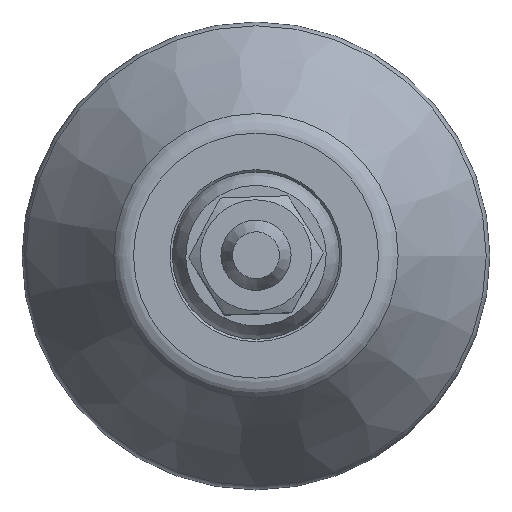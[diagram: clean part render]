
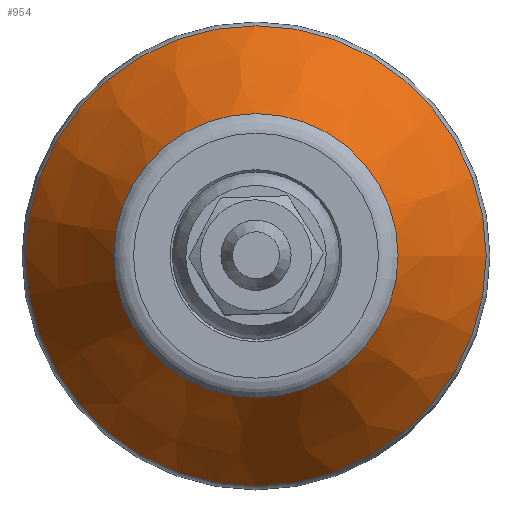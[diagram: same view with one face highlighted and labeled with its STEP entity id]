
A CAD part, top view. The second image highlights one B-rep face of the part: STEP entity #954.
In plain terms, the highlighted conical face has half-angle 33 degrees and reference radius 15.913 mm.
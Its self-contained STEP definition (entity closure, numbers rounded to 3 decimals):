
#954=ADVANCED_FACE('',(#2088,#2090),#2092,.T.);
#2088=FACE_BOUND('',#2089,.T.);
#2089=EDGE_LOOP('',(#3049,#3050));
#2090=FACE_BOUND('',#2091,.T.);
#2091=EDGE_LOOP('',(#3051,#3052));
#2092=CONICAL_SURFACE('',#2093,15.913,0.576);
#2093=AXIS2_PLACEMENT_3D('',#2094,#2095,#2096);
#2094=CARTESIAN_POINT('',(0.,0.,11.293));
#2095=DIRECTION('',(0.,0.,-1.));
#2096=DIRECTION('',(1.,0.,0.));
#3049=ORIENTED_EDGE('',*,*,#3582,.T.);
#3050=ORIENTED_EDGE('',*,*,#3581,.T.);
#3051=ORIENTED_EDGE('',*,*,#3585,.F.);
#3052=ORIENTED_EDGE('',*,*,#3586,.F.);
#3581=EDGE_CURVE('',#4144,#4145,#4146,.T.);
#3582=EDGE_CURVE('',#4145,#4144,#4147,.T.);
#3585=EDGE_CURVE('',#4152,#4153,#4154,.T.);
#3586=EDGE_CURVE('',#4153,#4152,#4155,.T.);
#4144=VERTEX_POINT('',#7118);
#4145=VERTEX_POINT('',#7119);
#4146=CIRCLE('',#7120,19.677);
#4147=CIRCLE('',#7124,19.677);
#4152=VERTEX_POINT('',#7138);
#4153=VERTEX_POINT('',#7139);
#4154=CIRCLE('',#7140,12.149);
#4155=CIRCLE('',#7144,12.149);
#7118=CARTESIAN_POINT('',(-19.677,0.,5.497));
#7119=CARTESIAN_POINT('',(19.677,0.,5.497));
#7120=AXIS2_PLACEMENT_3D('',#7121,#7122,#7123);
#7121=CARTESIAN_POINT('',(0.,0.,5.497));
#7122=DIRECTION('',(0.,0.,1.));
#7123=DIRECTION('',(-1.,0.,0.));
#7124=AXIS2_PLACEMENT_3D('',#7125,#7126,#7127);
#7125=CARTESIAN_POINT('',(0.,0.,5.497));
#7126=DIRECTION('',(0.,0.,1.));
#7127=DIRECTION('',(1.,0.,0.));
#7138=CARTESIAN_POINT('',(-12.149,0.,17.089));
#7139=CARTESIAN_POINT('',(12.149,0.,17.089));
#7140=AXIS2_PLACEMENT_3D('',#7141,#7142,#7143);
#7141=CARTESIAN_POINT('',(0.,0.,17.089));
#7142=DIRECTION('',(0.,0.,1.));
#7143=DIRECTION('',(-1.,0.,0.));
#7144=AXIS2_PLACEMENT_3D('',#7145,#7146,#7147);
#7145=CARTESIAN_POINT('',(0.,0.,17.089));
#7146=DIRECTION('',(0.,0.,1.));
#7147=DIRECTION('',(1.,0.,0.));
